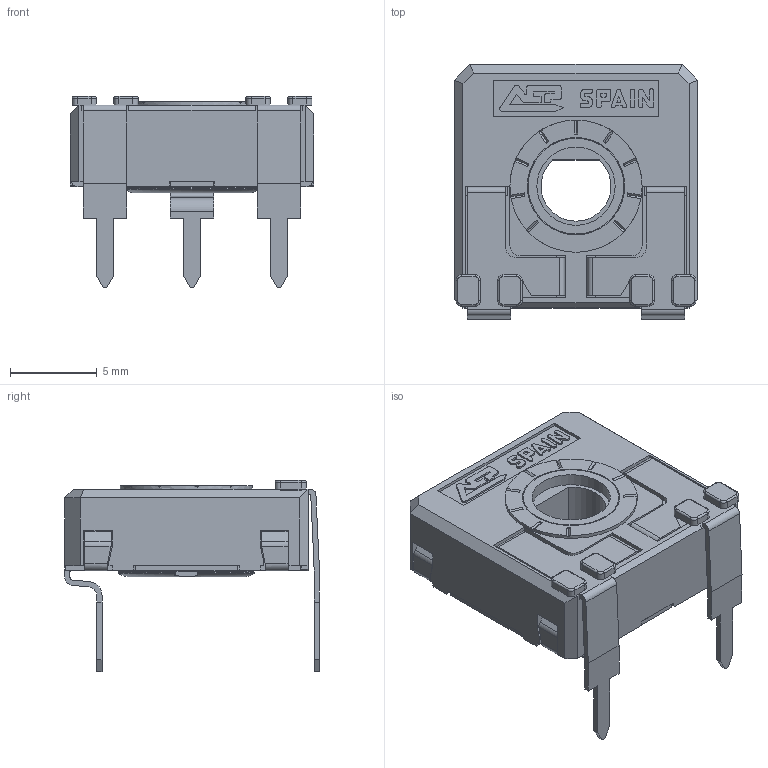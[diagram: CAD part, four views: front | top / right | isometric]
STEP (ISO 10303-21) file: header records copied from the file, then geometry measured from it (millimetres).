
FILE_DESCRIPTION(/* description */ (''),/* implementation_level */ '2;1');
FILE_NAME(/* name */ 'C:\Users\CEM\Desktop\ENVIAR\TRANSICION 3D CATALOGOS\RS14FV12,5 RT-RO.stp',/* time_stamp */ '2025-12-10T10:39:39+01:00',/* author */ ('CEM'),/* organization */ (''),/* preprocessor_version */ 'ST-DEVELOPER v16.13',/* originating_system */ 'Autodesk Inventor 2018',/* authorisation */ '');
FILE_SCHEMA (('AUTOMOTIVE_DESIGN { 1 0 10303 214 3 1 1 }'));
Length unit declared in the file: millimetre
Products named in the file (1): CARCASA CA14 PGA
Bounding box: 14 x 14.65 x 11 mm (x, y, z)
Volume: 527.1 mm3; surface area: 1474.6 mm2
Topology: 1 solids, 1 shells, 677 faces, 1908 edges, 1228 vertices
Faces by surface type: plane 498, cylinder 142, torus 23, bspline 8, cone 6
Full cylindrical faces by diameter (mm): 4.5 x1, 5.5 x1, 5.6 x1, 5.752 x1, 6.8 x1, 7.6 x1
Entity records: 21952 total; most frequent: CARTESIAN_POINT 4008, ORIENTED_EDGE 3788, DIRECTION 3576, EDGE_CURVE 1894, LINE 1496, VECTOR 1496, VERTEX_POINT 1224, AXIS2_PLACEMENT_3D 1040
